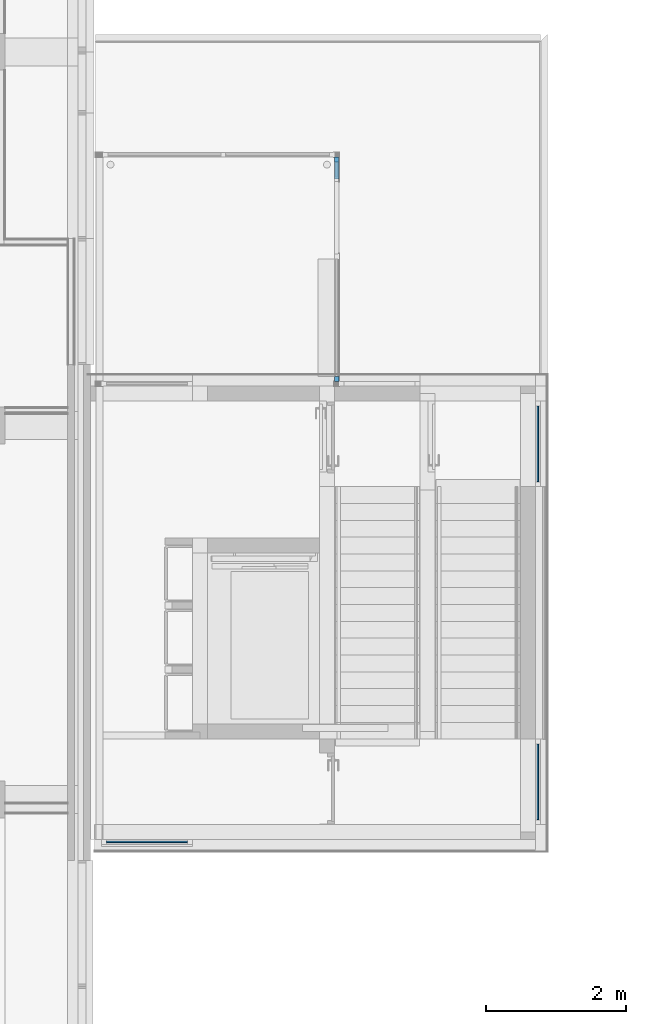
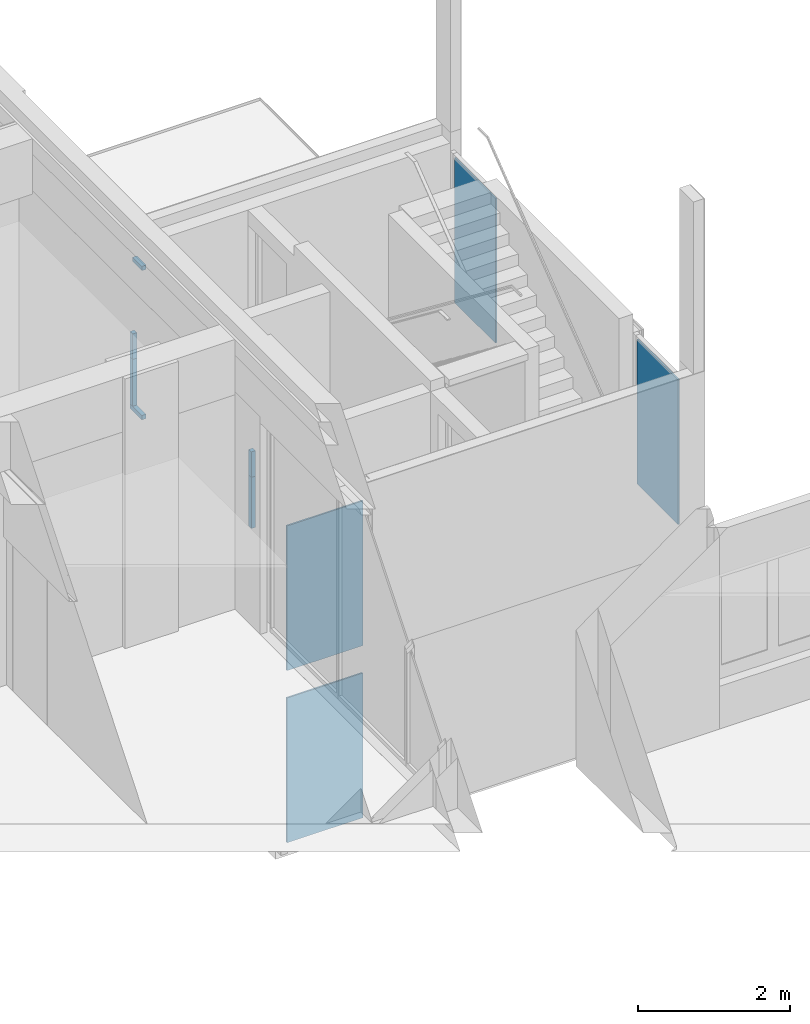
# One storey, part 10 of 117: 6 members, 4 plates, 5 elements without a shape of their own.
"""IFC2X3 building model written with IfcOpenShell, lengths in millimetres."""

from ifc_helpers import new_model, entity, si_unit, converted_unit, derived_unit, money_unit, direction, frame, origin_with_axes, place, context, subcontext, project, spatial, faceted_brep, source, transform, mapped, material, type_object, type_shapes, element, aggregate, save


model = new_model("IFC2X3")

# Units and contexts
model_context = context("Model", 3, precision=0.01, world=origin_with_axes(), true_north=direction((0.0, 1.0)))
body_context = subcontext(model_context, "Body", "Model", "MODEL_VIEW")
ifc_project = project(units=[si_unit("LENGTHUNIT", "METRE", prefix="MILLI"), si_unit("AREAUNIT", "SQUARE_METRE"), si_unit("VOLUMEUNIT", "CUBIC_METRE"), converted_unit("PLANEANGLEUNIT", "DEGREE", entity("IfcPlaneAngleMeasure", 0.0174532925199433), si_unit("PLANEANGLEUNIT", "RADIAN"), dimensions=[0, 0, 0, 0, 0, 0, 0]), money_unit("EUR"), converted_unit("TIMEUNIT", "Year", entity("IfcTimeMeasure", 31557600.0), si_unit("TIMEUNIT", "SECOND"), dimensions=[0, 0, 1, 0, 0, 0, 0]), si_unit("MASSUNIT", "GRAM", prefix="KILO"), si_unit("THERMODYNAMICTEMPERATUREUNIT", "DEGREE_CELSIUS"), si_unit("LUMINOUSINTENSITYUNIT", "LUMEN"), si_unit("ENERGYUNIT", "JOULE", prefix="MEGA"), derived_unit("THERMALCONDUCTANCEUNIT", [(si_unit("POWERUNIT", "WATT"), 1), (si_unit("LENGTHUNIT", "METRE"), -1), (si_unit("THERMODYNAMICTEMPERATUREUNIT", "KELVIN"), -1)]), derived_unit("SPECIFICHEATCAPACITYUNIT", [(si_unit("ENERGYUNIT", "JOULE"), 1), (si_unit("MASSUNIT", "GRAM", prefix="KILO"), -1), (si_unit("THERMODYNAMICTEMPERATUREUNIT", "KELVIN"), -1)]), derived_unit("MASSDENSITYUNIT", [(si_unit("MASSUNIT", "GRAM", prefix="KILO"), 1), (si_unit("VOLUMEUNIT", "CUBIC_METRE"), -1)])], contexts=[model_context])

# Site, building, storey
site_placement = place(None, origin_with_axes())
site = spatial("IfcSite", under=ifc_project, at=site_placement, Name="Site", CompositionType="ELEMENT")
building_placement = place(site_placement, origin_with_axes())
building = spatial("IfcBuilding", under=site, at=building_placement, Name="Naam gebouw", CompositionType="ELEMENT")
storey_placement = place(building_placement, frame((0.0, 0.0, 4150.0), z_axis=(0.0, 0.0, 1.0), x_axis=(1.0, 0.0, 0.0)))
storey = spatial("IfcBuildingStorey", under=building, at=storey_placement, Name="1e verdieping N", CompositionType="ELEMENT", Elevation=4150.0)

# Curtain wall, members
curtain_wall_type = type_object("IfcCurtainWallType", Name="Curtain Wall:21_CW_alu kozijn 070x065", PredefinedType="NOTDEFINED")
curtain_wall_1_placement = place(storey_placement, frame((0.0, 0.0, -4150.0), z_axis=(0.0, 0.0, 1.0), x_axis=(1.0, 0.0, 0.0)))
curtain_wall_1 = element("IfcCurtainWall", 1, at=curtain_wall_1_placement, inside=storey, type_object=curtain_wall_type, Name="Curtain Wall:21_CW_alu kozijn 070x065", ObjectType="Curtain Wall:21_CW_alu kozijn 070x065")
ifc_material_1 = material(Name="RAL 7024 - Grafietgrijs")
member_type_1 = type_object("IfcMemberType", Name="Rectangular Mullion:31_alu_070x065 RAL 7024", PredefinedType="MULLION")
member_1_placement = place(curtain_wall_1_placement, frame((33745.50000004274, 42374.41242631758, 2849.999999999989), z_axis=(0.0, 0.0, 1.0), x_axis=(1.0, 0.0, 0.0)))
member_1 = element("IfcMember", 2, at=member_1_placement, type_object=member_type_1, material=ifc_material_1, Name="Rectangular Mullion:31_alu_070x065 RAL 7024", ObjectType="MULLION", context=body_context, shape_type="Brep", body=[
    faceted_brep([(32.50000000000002, -244.7999999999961, 0.0), (32.50000000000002, -244.7999999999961, -70.0), (32.49999999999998, 0.0, -70.0), (32.49999999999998, 0.0, 0.0), (-32.49999999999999, -244.7999999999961, 0.0), (-32.49999999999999, -244.7999999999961, -70.0), (-32.50000000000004, 0.0, -70.0), (-32.50000000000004, 0.0, 0.0)], [[[0, 1, 2, 3]], [[0, 4, 5, 1]], [[1, 5, 6, 2]], [[3, 2, 6, 7]], [[4, 0, 3, 7]], [[5, 4, 7, 6]]]),
])
member_type_2 = type_object("IfcMemberType", Name="Rectangular Mullion:31_alu_070x065 RAL 7024", PredefinedType="MULLION")
member_2_placement = place(curtain_wall_1_placement, frame((33745.50000004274, 39244.91242633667, 1612.799999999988), z_axis=(0.0, 0.0, 1.0), x_axis=(0.0, -1.0, 0.0)))
member_2 = element("IfcMember", 3, at=member_2_placement, type_object=member_type_2, material=ifc_material_1, Name="Rectangular Mullion:31_alu_070x065 RAL 7024", ObjectType="MULLION", context=body_context, shape_type="Brep", body=[
    faceted_brep([(0.0, 32.5, -409.5000000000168), (-70.0, 32.50000000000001, -409.5000000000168), (-70.0, 32.50000000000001, 0.0), (0.0, 32.5, 0.0), (0.0, -32.50000000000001, -409.5000000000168), (-70.0, -32.5, -409.5000000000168), (-70.0, -32.5, 0.0), (0.0, -32.50000000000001, 0.0)], [[[0, 1, 2, 3]], [[0, 4, 5, 1]], [[1, 5, 6, 2]], [[3, 2, 6, 7]], [[4, 0, 3, 7]], [[5, 4, 7, 6]]]),
])
member_type_3 = type_object("IfcMemberType", Name="Rectangular Mullion:31_alu_070x065 RAL 7024", PredefinedType="MULLION")
member_3_placement = place(curtain_wall_1_placement, frame((33745.50000004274, 39244.91242633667, 1203.299999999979), z_axis=(0.0, 0.0, 1.0), x_axis=(0.0, -1.0, 0.0)))
member_3 = element("IfcMember", 4, at=member_3_placement, type_object=member_type_3, material=ifc_material_1, Name="Rectangular Mullion:31_alu_070x065 RAL 7024", ObjectType="MULLION", context=body_context, shape_type="Brep", body=[
    faceted_brep([(0.0, 32.5, -823.3000000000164), (-70.0, 32.50000000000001, -823.3000000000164), (-70.0, 32.50000000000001, 0.0), (0.0, 32.5, 0.0), (0.0, -32.50000000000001, -823.3000000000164), (-70.0, -32.5, -823.3000000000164), (-70.0, -32.5, 0.0), (0.0, -32.50000000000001, 0.0)], [[[0, 1, 2, 3]], [[0, 4, 5, 1]], [[1, 5, 6, 2]], [[3, 2, 6, 7]], [[4, 0, 3, 7]], [[5, 4, 7, 6]]]),
])
member_type_4 = type_object("IfcMemberType", Name="Rectangular Mullion:31_alu_070x065 RAL 7024", PredefinedType="MULLION")
member_4_placement = place(curtain_wall_1_placement, frame((33745.50000004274, 42444.41242626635, 1203.299999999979), z_axis=(0.0, 0.0, 1.0), x_axis=(0.0, 1.0, 0.0)))
member_4 = element("IfcMember", 5, at=member_4_placement, type_object=member_type_4, material=ifc_material_1, Name="Rectangular Mullion:31_alu_070x065 RAL 7024", ObjectType="MULLION", context=body_context, shape_type="Brep", body=[
    faceted_brep([(0.0, -32.5, 409.5000000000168), (-70.0, -32.50000000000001, 409.5000000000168), (-70.0, -32.50000000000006, 0.0), (0.0, -32.50000000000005, 0.0), (0.0, 32.50000000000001, 409.5000000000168), (-70.0, 32.5, 409.5000000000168), (-70.0, 32.49999999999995, 0.0), (0.0, 32.49999999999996, 0.0)], [[[0, 1, 2, 3]], [[0, 4, 5, 1]], [[1, 5, 6, 2]], [[3, 2, 6, 7]], [[4, 0, 3, 7]], [[5, 4, 7, 6]]]),
])
member_type_5 = type_object("IfcMemberType", Name="Rectangular Mullion:31_alu_070x065 RAL 7024", PredefinedType="MULLION")
member_5_placement = place(curtain_wall_1_placement, frame((33745.50000004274, 42129.61242627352, 379.9999999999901), z_axis=(0.0, 0.0, 1.0), x_axis=(1.0, 0.0, 0.0)))
member_5 = element("IfcMember", 6, at=member_5_placement, type_object=member_type_5, material=ifc_material_1, Name="Rectangular Mullion:31_alu_070x065 RAL 7024", ObjectType="MULLION", context=body_context, shape_type="Brep", body=[
    faceted_brep([(32.49999999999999, 314.799999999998, 0.0), (32.49999999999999, 314.799999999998, 70.0), (32.50000000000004, 0.0, 70.0), (32.50000000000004, 0.0, 0.0), (-32.50000000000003, 314.799999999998, 0.0), (-32.50000000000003, 314.799999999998, 70.0), (-32.49999999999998, 0.0, 70.0), (-32.49999999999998, 0.0, 0.0)], [[[0, 1, 2, 3]], [[0, 4, 5, 1]], [[1, 5, 6, 2]], [[3, 2, 6, 7]], [[4, 0, 3, 7]], [[5, 4, 7, 6]]]),
])
member_type_6 = type_object("IfcMemberType", Name="Rectangular Mullion:31_alu_070x065 RAL 7024", PredefinedType="MULLION")
member_6_placement = place(curtain_wall_1_placement, frame((33745.50000004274, 42444.41242626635, 450.0000000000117), z_axis=(0.0, 0.0, 1.0), x_axis=(0.0, 1.0, 0.0)))
member_6 = element("IfcMember", 7, at=member_6_placement, type_object=member_type_6, material=ifc_material_1, Name="Rectangular Mullion:31_alu_070x065 RAL 7024", ObjectType="MULLION", context=body_context, shape_type="Brep", body=[
    faceted_brep([(0.0, -32.5, 753.3000000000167), (-70.0, -32.50000000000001, 753.3000000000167), (-70.0, -32.50000000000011, 0.0), (0.0, -32.50000000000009, 0.0), (0.0, 32.50000000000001, 753.3000000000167), (-70.0, 32.5, 753.3000000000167), (-70.0, 32.49999999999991, 0.0), (0.0, 32.49999999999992, 0.0)], [[[0, 1, 2, 3]], [[0, 4, 5, 1]], [[1, 5, 6, 2]], [[3, 2, 6, 7]], [[4, 0, 3, 7]], [[5, 4, 7, 6]]]),
])
aggregate(curtain_wall_1, [member_1, member_2, member_3, member_4, member_5, member_6])

# Curtain wall, plate
curtain_wall_2_placement = place(storey_placement, frame((0.0, 0.0, -4150.0), z_axis=(0.0, 0.0, 1.0), x_axis=(1.0, 0.0, 0.0)))
curtain_wall_2 = element("IfcCurtainWall", 8, at=curtain_wall_2_placement, inside=storey, type_object=curtain_wall_type, Name="Curtain Wall:21_CW_alu kozijn 070x065", ObjectType="Curtain Wall:21_CW_alu kozijn 070x065")
ifc_material_2 = material(Name="Glass")
plate_type_1 = type_object("IfcPlateType", Name="System Panel:31_CWP_alu glas_2", PredefinedType="CURTAIN_PANEL")
shared_shape_1 = source(origin_with_axes(), body_context, "Body", "Brep", [
    faceted_brep([(540.0000000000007, -12.00000000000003, 0.0), (540.0000000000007, 11.99999999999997, 0.0), (540.0000000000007, 11.99999999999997, 2330.000000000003), (540.0000000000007, -12.00000000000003, 2330.000000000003), (-540.0000000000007, -11.99999999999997, 0.0), (-540.0000000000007, 12.00000000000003, 0.0), (-540.0000000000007, 12.00000000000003, 2330.000000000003), (-540.0000000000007, -11.99999999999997, 2330.000000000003)], [[[0, 1, 2, 3]], [[0, 4, 5, 1]], [[1, 5, 6, 2]], [[3, 2, 6, 7]], [[4, 0, 3, 7]], [[5, 4, 7, 6]]]),
])
type_shapes(plate_type_1, [shared_shape_1])
plate_1_placement = place(curtain_wall_2_placement, frame((36613.5000000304, 33535.9124262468, 3219.999999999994), z_axis=(0.0, 0.0, 1.0), x_axis=(0.0, -1.0, 0.0)))
plate_1 = element("IfcPlate", 9, at=plate_1_placement, type_object=plate_type_1, material=ifc_material_2, Name="System Panel:31_CWP_alu glas_2", ObjectType="CURTAIN_PANEL", context=body_context, shape_type="MappedRepresentation", body=[
    mapped(shared_shape_1, transform((0.0, 0.0, 0.0))),
])
aggregate(curtain_wall_2, [plate_1])

curtain_wall_3_placement = place(storey_placement, frame((0.0, 0.0, -4150.0), z_axis=(0.0, 0.0, 1.0), x_axis=(1.0, 0.0, 0.0)))
curtain_wall_3 = element("IfcCurtainWall", 10, at=curtain_wall_3_placement, inside=storey, type_object=curtain_wall_type, Name="Curtain Wall:21_CW_alu kozijn 070x065", ObjectType="Curtain Wall:21_CW_alu kozijn 070x065")
plate_2_placement = place(curtain_wall_3_placement, frame((36613.5000000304, 38355.91242625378, 3219.999999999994), z_axis=(0.0, 0.0, 1.0), x_axis=(0.0, -1.0, 0.0)))
plate_2 = element("IfcPlate", 11, at=plate_2_placement, type_object=plate_type_1, material=ifc_material_2, Name="System Panel:31_CWP_alu glas_2", ObjectType="CURTAIN_PANEL", context=body_context, shape_type="MappedRepresentation", body=[
    mapped(shared_shape_1, transform((0.0, 0.0, 0.0))),
])
aggregate(curtain_wall_3, [plate_2])

curtain_wall_4_placement = place(storey_placement, frame((0.0, 0.0, -4150.0), z_axis=(0.0, 0.0, 1.0), x_axis=(1.0, 0.0, 0.0)))
curtain_wall_4 = element("IfcCurtainWall", 12, at=curtain_wall_4_placement, inside=storey, type_object=curtain_wall_type, Name="Curtain Wall:21_CW_alu kozijn 070x065", ObjectType="Curtain Wall:21_CW_alu kozijn 070x065")
plate_type_2 = type_object("IfcPlateType", Name="System Panel:31_CWP_alu glas_2", PredefinedType="CURTAIN_PANEL")
shared_shape_2 = source(origin_with_axes(), body_context, "Body", "Brep", [
    faceted_brep([(577.0051413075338, -12.00000000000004, 0.0), (577.0051413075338, 11.99999999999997, 0.0), (577.0051413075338, 11.99999999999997, 2330.000000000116), (577.0051413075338, -12.00000000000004, 2330.000000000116), (-577.0051413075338, -11.99999999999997, 0.0), (-577.0051413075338, 12.00000000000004, 0.0), (-577.0051413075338, 12.00000000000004, 2330.000000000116), (-577.0051413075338, -11.99999999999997, 2330.000000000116)], [[[0, 1, 2, 3]], [[0, 4, 5, 1]], [[1, 5, 6, 2]], [[3, 2, 6, 7]], [[4, 0, 3, 7]], [[5, 4, 7, 6]]]),
])
type_shapes(plate_type_2, [shared_shape_2])
plate_3_placement = place(curtain_wall_4_placement, frame((31038.00514136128, 32679.41242631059, 450.0000000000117), z_axis=(0.0, 0.0, 1.0), x_axis=(-1.0, 0.0, 0.0)))
plate_3 = element("IfcPlate", 13, at=plate_3_placement, type_object=plate_type_2, material=ifc_material_2, Name="System Panel:31_CWP_alu glas_2", ObjectType="CURTAIN_PANEL", context=body_context, shape_type="MappedRepresentation", body=[
    mapped(shared_shape_2, transform((0.0, 0.0, 0.0))),
])
aggregate(curtain_wall_4, [plate_3])

curtain_wall_5_placement = place(storey_placement, frame((0.0, 0.0, -4150.0), z_axis=(0.0, 0.0, 1.0), x_axis=(1.0, 0.0, 0.0)))
curtain_wall_5 = element("IfcCurtainWall", 14, at=curtain_wall_5_placement, inside=storey, type_object=curtain_wall_type, Name="Curtain Wall:21_CW_alu kozijn 070x065", ObjectType="Curtain Wall:21_CW_alu kozijn 070x065")
plate_4_placement = place(curtain_wall_5_placement, frame((31038.00514136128, 32679.41242631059, 3219.999999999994), z_axis=(0.0, 0.0, 1.0), x_axis=(-1.0, 0.0, 0.0)))
plate_4 = element("IfcPlate", 15, at=plate_4_placement, type_object=plate_type_2, material=ifc_material_2, Name="System Panel:31_CWP_alu glas_2", ObjectType="CURTAIN_PANEL", context=body_context, shape_type="MappedRepresentation", body=[
    mapped(shared_shape_2, transform((0.0, 0.0, 0.0))),
])
aggregate(curtain_wall_5, [plate_4])

save(model, "model.ifc")
